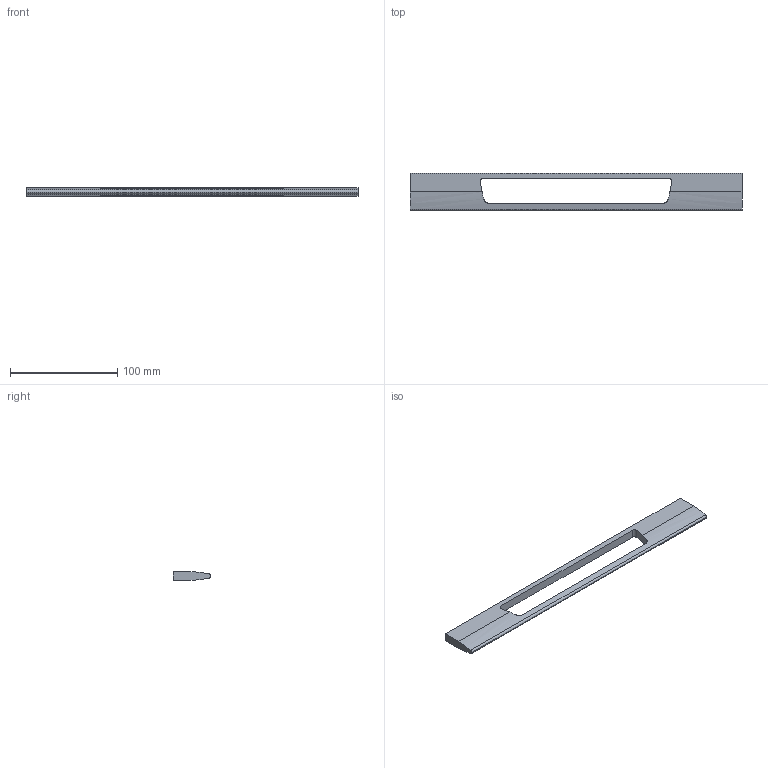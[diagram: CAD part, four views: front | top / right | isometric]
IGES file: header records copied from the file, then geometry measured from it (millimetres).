
Start section: Data from Parasolid IGES Translator 15.0.47, Copyright(c) 2006 Siemens P LM Software. All Rights Reserved.
Global section: file name: 9105838.igs; native system:  By UGS Corp.; preprocessor: XPlus GENERIC/IGES 3.0; author: Noname; organization: Noname; date: 20140122.182921; units: millimetre
Bounding box: 309 x 35 x 8 mm (x, y, z)
Surface area: 20291.6 mm2 (no closed solid volume)
Topology: 0 solids, 0 shells, 22 faces, 120 edges, 118 vertices
Faces by surface type: revolution 11, extrusion 11
